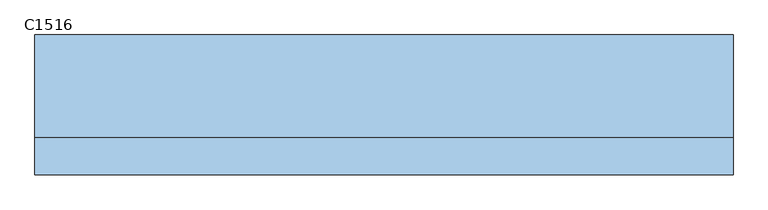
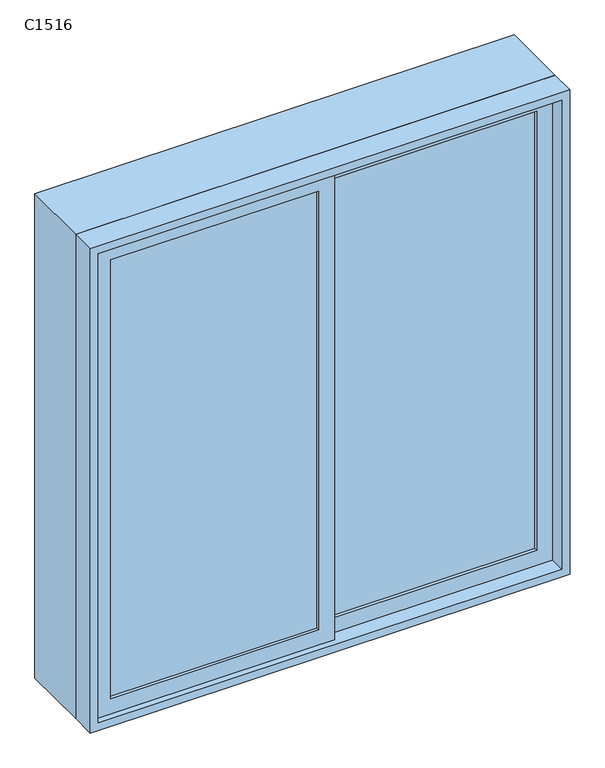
"""IFC4 building model written with IfcOpenShell, lengths in millimetres: window geometry, 推拉窗6 : C1516."""

from ifc_helpers import new_model, si_unit, frame, origin, place, context, project, spatial, polyline, outline, extrude, source, transform, mapped, element, save


def c1516_23733c97(model_context):
    return source(origin(), model_context, "Body", "SweptSolid", [
        extrude(outline(polyline([(-665.475, -53.1265625), (-665.475, -43.1265625), (-15.475, -43.1265625), (-15.475, -53.1265625), (-665.475, -53.1265625)])), frame((0.0, 0.0, 975.0), z_axis=(0.0, 0.0, 1.0), x_axis=(1.0, 0.0, 0.0)), (0.0, 0.0, 1.0), 1450.0),
        extrude(outline(polyline([(34.525, -23.1265625), (34.525, -13.1265625), (684.525, -13.1265625), (684.525, -23.1265625), (34.525, -23.1265625)])), frame((0.0, 0.0, 975.0), z_axis=(0.0, 0.0, 1.0), x_axis=(1.0, 0.0, 0.0)), (0.0, 0.0, 1.0), 1450.0),
        extrude(outline(polyline([(2500.0, -740.475), (900.0, -740.475), (900.0, 759.525), (2500.0, 759.525), (2500.0, -740.475)]), holes=[polyline([(2445.0, 709.525), (955.0, 709.525), (955.0, -690.475), (2445.0, -690.475), (2445.0, 709.525)])]), frame((0.0, -3.1265625, 0.0), z_axis=(0.0, 1.0, 0.0), x_axis=(0.0, 0.0, 1.0)), (0.0, 0.0, 1.0), 220.0),
        extrude(outline(polyline([(925.0, 34.525), (2475.0, 34.525), (2475.0, -715.475), (925.0, -715.475), (925.0, 34.525)]), holes=[polyline([(975.0, -15.475), (975.0, -665.475), (2425.0, -665.475), (2425.0, -15.475), (975.0, -15.475)])]), frame((0.0, -63.1265625, 0.0), z_axis=(0.0, 1.0, 0.0), x_axis=(0.0, 0.0, 1.0)), (0.0, 0.0, 1.0), 30.0),
        extrude(outline(polyline([(2475.0, -15.475), (925.0, -15.475), (925.0, 734.525), (2475.0, 734.525), (2475.0, -15.475)]), holes=[polyline([(2425.0, 34.525), (2425.0, 684.525), (975.0, 684.525), (975.0, 34.525), (2425.0, 34.525)])]), frame((0.0, -33.1265625, 0.0), z_axis=(0.0, 1.0, 0.0), x_axis=(0.0, 0.0, 1.0)), (0.0, 0.0, 1.0), 30.0),
        extrude(outline(polyline([(2500.0, -740.475), (900.0, -740.475), (900.0, 759.525), (2500.0, 759.525), (2500.0, -740.475)]), holes=[polyline([(925.0, -715.475), (2475.0, -715.475), (2475.0, 734.525), (925.0, 734.525), (925.0, -715.475)])]), frame((0.0, -83.1265625, 0.0), z_axis=(0.0, 1.0, 0.0), x_axis=(0.0, 0.0, 1.0)), (0.0, 0.0, 1.0), 80.0),
    ])


if __name__ == "__main__":
    model = new_model("IFC4")
    model_context = context("Model", 3, world=origin())
    ifc_project = project(units=[si_unit("LENGTHUNIT", "METRE", prefix="MILLI")], contexts=[model_context])
    site = spatial("IfcSite", under=ifc_project)
    building = spatial("IfcBuilding", under=site)
    placement = place(None, origin())
    c1516_shape = c1516_23733c97(model_context)
    element("IfcWindow", 1, ObjectType="推拉窗6 : C1516", at=placement, inside=building, context=model_context, shape_type="MappedRepresentation", body=[
        mapped(c1516_shape, transform((0.0, 0.0, 0.0), x_axis=(1.0, 0.0, 0.0), y_axis=(0.0, 1.0, 0.0), z_axis=(0.0, 0.0, 1.0))),
    ])
    save(model, "model.ifc")
